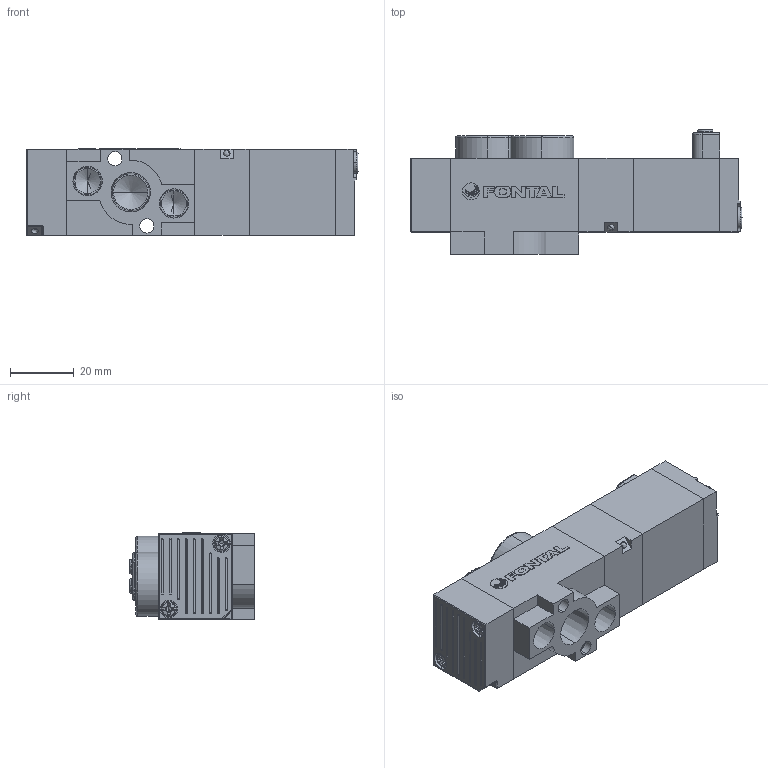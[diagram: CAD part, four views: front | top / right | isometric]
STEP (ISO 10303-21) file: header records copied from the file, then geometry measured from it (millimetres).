
FILE_DESCRIPTION (( 'STEP AP203' ), '1' );
FILE_NAME ('RCS2406-02-#L##.STEP', '2016-02-04T06:14:10', ( 'Sam Lin' ), ( '' ), 'SwSTEP 2.0', 'SolidWorks 2013', '' );
FILE_SCHEMA (( 'CONFIG_CONTROL_DESIGN' ));
Length unit declared in the file: metre
Products named in the file (10): RC06-1; RC06-2; PC6-M3; RC06-3; PCS2406-3-小圓珠; PCS2406-9; RC06-5; RC06-6=L; RCS2406-02-#L##; PC06-MARK
Assembly tree (12 placements, depth 2):
  RCS2406-02-#L##
    PC06-MARK
    RC06-1
    RC06-2
    PC6-M3  x4
    RC06-3
    PCS2406-3-小圓珠
    PCS2406-9
    RC06-5
    RC06-6=L
Bounding box: 103.75 x 39 x 27.15 mm (x, y, z)
Volume: 63493.6 mm3; surface area: 23576 mm2
Topology: 18 solids, 18 shells, 481 faces, 1214 edges, 759 vertices
Faces by surface type: plane 233, cylinder 113, bspline 76, cone 59
Entity records: 13694 total; most frequent: CARTESIAN_POINT 3865, ORIENTED_EDGE 1840, DIRECTION 1728, EDGE_CURVE 920, VERTEX_POINT 606, AXIS2_PLACEMENT_3D 598, VECTOR 532, LINE 532
